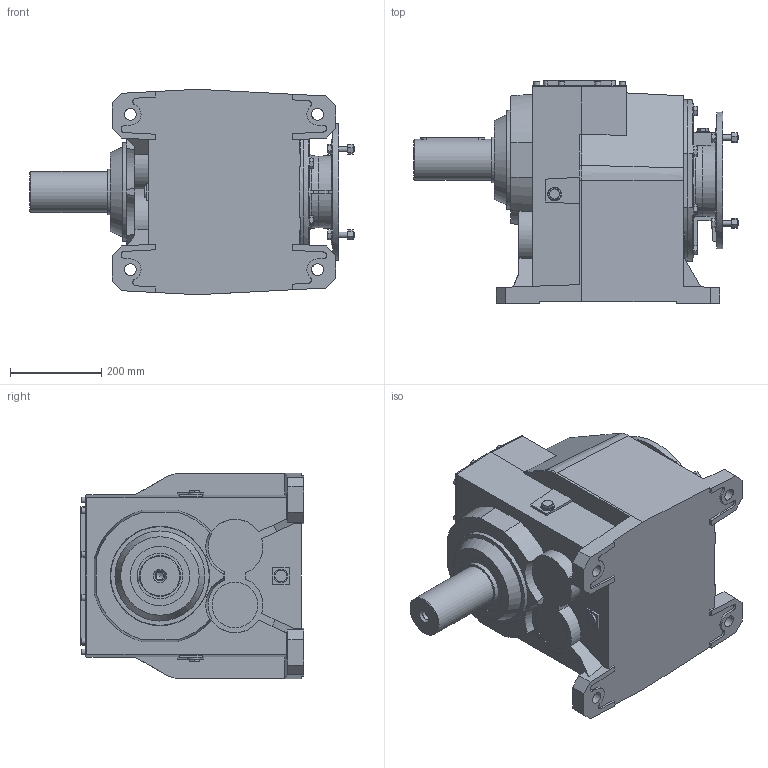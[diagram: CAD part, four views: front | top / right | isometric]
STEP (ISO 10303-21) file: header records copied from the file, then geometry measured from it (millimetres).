
FILE_DESCRIPTION(/* description */ ('STEP AP214'),/* implementation_level */ '2;1');
FILE_NAME(/* name */ 'H143T132 B590x1700NO----(-NO----------)',/* time_stamp */ '2024-11-07T12:26:15+01:00',/* author */ ('License CC BY-ND 4.0'),/* organization */ ('CADENAS'),/* preprocessor_version */ 'ST-DEVELOPER v19.3',/* originating_system */ 'PARTsolutions',/* authorisation */ ' ');
FILE_SCHEMA (('AUTOMOTIVE_DESIGN {1 0 10303 214 3 1 1}'));
Length unit declared in the file: millimetre
Products named in the file (5): H143T132 B590x1700NO----(-NO----------); 143 T; 143-H-300x38(132 B51); 143-300x38; 143T90-1
Assembly tree (4 placements, depth 2):
  H143T132 B590x1700NO----(-NO----------)
    143 T
    143-H-300x38(132 B51)
    143-300x38
    143T90-1
Bounding box: 710 x 489.5 x 450 mm (x, y, z)
Volume: 71156649.8 mm3; surface area: 1686759.5 mm2
Topology: 4 solids, 4 shells, 632 faces, 1602 edges, 1058 vertices
Faces by surface type: plane 453, cylinder 122, cone 56, torus 1
Full cylindrical faces by diameter (mm): 9.412 x3, 12 x8, 13 x12, 17.294 x1, 21 x1, 26 x6, 28 x3, 30 x5, 46 x1, 55 x1, 90 x1, 100 x2, 130 x1, 230 x1, 300 x1, 305 x2
Entity records: 23040 total; most frequent: CARTESIAN_POINT 3536, ORIENTED_EDGE 3064, DIRECTION 3063, EDGE_CURVE 1532, LINE 1075, VECTOR 1075, VERTEX_POINT 1049, AXIS2_PLACEMENT_3D 994
